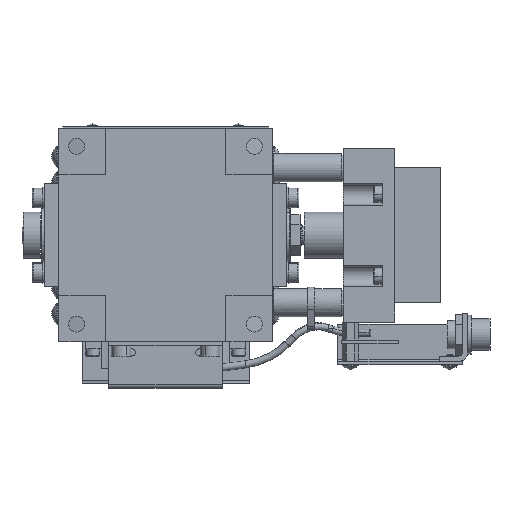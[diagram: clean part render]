
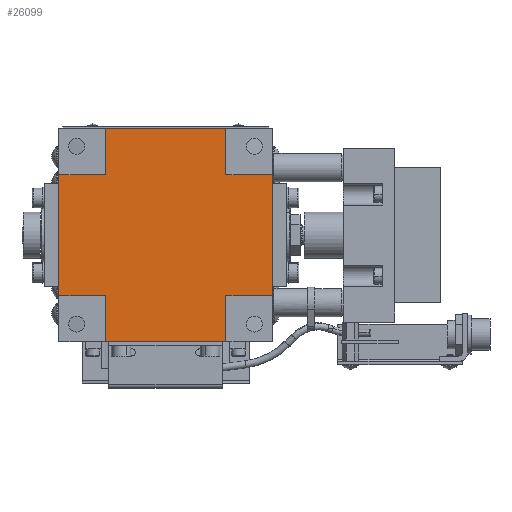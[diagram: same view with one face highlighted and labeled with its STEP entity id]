
A CAD part, front view. The second image highlights one B-rep face of the part: STEP entity #26099.
In plain terms, the highlighted planar face has unit normal (0, -1, 0).
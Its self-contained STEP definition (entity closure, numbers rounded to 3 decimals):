
#379 = CARTESIAN_POINT ( 'NONE',  ( -17., 0.3, -30. ) ) ;
#1119 = LINE ( 'NONE', #3872, #7106 ) ;
#1122 = VECTOR ( 'NONE', #15544, 1000. ) ;
#1165 = DIRECTION ( 'NONE',  ( -1., 0., 0. ) ) ;
#1286 = PLANE ( 'NONE',  #15846 ) ;
#1854 = VECTOR ( 'NONE', #28286, 1000. ) ;
#2549 = VERTEX_POINT ( 'NONE', #10016 ) ;
#3120 = EDGE_CURVE ( 'NONE', #18739, #12435, #4174, .T. ) ;
#3287 = EDGE_CURVE ( 'NONE', #12435, #21668, #12862, .T. ) ;
#3872 = CARTESIAN_POINT ( 'NONE',  ( -30., 0.3, 17. ) ) ;
#4174 = LINE ( 'NONE', #13944, #28178 ) ;
#4326 = VERTEX_POINT ( 'NONE', #22084 ) ;
#5207 = DIRECTION ( 'NONE',  ( 0., 0., 1. ) ) ;
#5702 = CARTESIAN_POINT ( 'NONE',  ( -17., 0.3, 30. ) ) ;
#6224 = ORIENTED_EDGE ( 'NONE', *, *, #12008, .T. ) ;
#6903 = CARTESIAN_POINT ( 'NONE',  ( -17., 0.3, -30. ) ) ;
#7106 = VECTOR ( 'NONE', #21677, 1000. ) ;
#7121 = VECTOR ( 'NONE', #10464, 1000. ) ;
#7135 = CARTESIAN_POINT ( 'NONE',  ( -30., 0.3, -17. ) ) ;
#7307 = EDGE_CURVE ( 'NONE', #21668, #4326, #8519, .T. ) ;
#7794 = CARTESIAN_POINT ( 'NONE',  ( 30., 0.3, 17. ) ) ;
#7825 = LINE ( 'NONE', #7899, #1854 ) ;
#7899 = CARTESIAN_POINT ( 'NONE',  ( -30., 0.3, -17. ) ) ;
#7927 = VECTOR ( 'NONE', #20211, 1000. ) ;
#7968 = ORIENTED_EDGE ( 'NONE', *, *, #8666, .T. ) ;
#8000 = VECTOR ( 'NONE', #14420, 1000. ) ;
#8519 = LINE ( 'NONE', #28573, #1122 ) ;
#8666 = EDGE_CURVE ( 'NONE', #10912, #2549, #25768, .T. ) ;
#8737 = VERTEX_POINT ( 'NONE', #9597 ) ;
#8740 = VERTEX_POINT ( 'NONE', #13946 ) ;
#9041 = CARTESIAN_POINT ( 'NONE',  ( 17., 0.3, -30. ) ) ;
#9116 = DIRECTION ( 'NONE',  ( 1., 0., 0. ) ) ;
#9476 = EDGE_CURVE ( 'NONE', #24300, #8737, #25319, .T. ) ;
#9560 = EDGE_CURVE ( 'NONE', #20456, #18739, #11095, .T. ) ;
#9597 = CARTESIAN_POINT ( 'NONE',  ( 17., 0.3, -30. ) ) ;
#10016 = CARTESIAN_POINT ( 'NONE',  ( 30., 0.3, -17. ) ) ;
#10464 = DIRECTION ( 'NONE',  ( 0., 0., 1. ) ) ;
#10912 = VERTEX_POINT ( 'NONE', #17285 ) ;
#11095 = LINE ( 'NONE', #21156, #25983 ) ;
#11154 = ORIENTED_EDGE ( 'NONE', *, *, #9476, .T. ) ;
#11931 = CARTESIAN_POINT ( 'NONE',  ( -30., 0.3, 17. ) ) ;
#12008 = EDGE_CURVE ( 'NONE', #8740, #22316, #1119, .T. ) ;
#12435 = VERTEX_POINT ( 'NONE', #12718 ) ;
#12674 = ORIENTED_EDGE ( 'NONE', *, *, #7307, .T. ) ;
#12718 = CARTESIAN_POINT ( 'NONE',  ( 17., 0.3, 30. ) ) ;
#12771 = LINE ( 'NONE', #9041, #7927 ) ;
#12862 = LINE ( 'NONE', #5702, #8000 ) ;
#13375 = CARTESIAN_POINT ( 'NONE',  ( 17., 0.3, -17. ) ) ;
#13944 = CARTESIAN_POINT ( 'NONE',  ( 17., 0.3, 17. ) ) ;
#13946 = CARTESIAN_POINT ( 'NONE',  ( -30., 0.3, 17. ) ) ;
#14420 = DIRECTION ( 'NONE',  ( -1., 0., 0. ) ) ;
#15544 = DIRECTION ( 'NONE',  ( 0., 0., -1. ) ) ;
#15846 = AXIS2_PLACEMENT_3D ( 'NONE', #25730, #27971, #25829 ) ;
#15957 = ORIENTED_EDGE ( 'NONE', *, *, #17187, .T. ) ;
#15999 = DIRECTION ( 'NONE',  ( 0., 0., -1. ) ) ;
#16049 = EDGE_LOOP ( 'NONE', ( #7968, #22090, #20410, #16556, #28203, #12674, #17425, #6224, #25638, #25308, #11154, #15957 ) ) ;
#16159 = CARTESIAN_POINT ( 'NONE',  ( 17., 0.3, 17. ) ) ;
#16556 = ORIENTED_EDGE ( 'NONE', *, *, #3120, .T. ) ;
#16651 = DIRECTION ( 'NONE',  ( -1., 0., 0. ) ) ;
#17187 = EDGE_CURVE ( 'NONE', #8737, #10912, #12771, .T. ) ;
#17285 = CARTESIAN_POINT ( 'NONE',  ( 17., 0.3, -17. ) ) ;
#17425 = ORIENTED_EDGE ( 'NONE', *, *, #26548, .T. ) ;
#18416 = CARTESIAN_POINT ( 'NONE',  ( -17., 0.3, 30. ) ) ;
#18434 = DIRECTION ( 'NONE',  ( 1., 0., 0. ) ) ;
#18739 = VERTEX_POINT ( 'NONE', #16159 ) ;
#18957 = EDGE_CURVE ( 'NONE', #2549, #20456, #24810, .T. ) ;
#19390 = VERTEX_POINT ( 'NONE', #23122 ) ;
#19561 = EDGE_CURVE ( 'NONE', #22316, #19390, #7825, .T. ) ;
#19703 = CARTESIAN_POINT ( 'NONE',  ( 30., 0.3, 17. ) ) ;
#19922 = VECTOR ( 'NONE', #15999, 1000. ) ;
#20211 = DIRECTION ( 'NONE',  ( 0., 0., 1. ) ) ;
#20410 = ORIENTED_EDGE ( 'NONE', *, *, #9560, .T. ) ;
#20456 = VERTEX_POINT ( 'NONE', #7794 ) ;
#20609 = FACE_OUTER_BOUND ( 'NONE', #16049, .T. ) ;
#21156 = CARTESIAN_POINT ( 'NONE',  ( 17., 0.3, 17. ) ) ;
#21200 = EDGE_CURVE ( 'NONE', #19390, #24300, #25785, .T. ) ;
#21668 = VERTEX_POINT ( 'NONE', #18416 ) ;
#21677 = DIRECTION ( 'NONE',  ( 0., 0., -1. ) ) ;
#22084 = CARTESIAN_POINT ( 'NONE',  ( -17., 0.3, 17. ) ) ;
#22090 = ORIENTED_EDGE ( 'NONE', *, *, #18957, .T. ) ;
#22316 = VERTEX_POINT ( 'NONE', #7135 ) ;
#22534 = VECTOR ( 'NONE', #18434, 1000. ) ;
#23122 = CARTESIAN_POINT ( 'NONE',  ( -17., 0.3, -17. ) ) ;
#23318 = CARTESIAN_POINT ( 'NONE',  ( -17., 0.3, -30. ) ) ;
#24052 = VECTOR ( 'NONE', #9116, 1000. ) ;
#24300 = VERTEX_POINT ( 'NONE', #23318 ) ;
#24810 = LINE ( 'NONE', #19703, #7121 ) ;
#25308 = ORIENTED_EDGE ( 'NONE', *, *, #21200, .T. ) ;
#25319 = LINE ( 'NONE', #379, #22534 ) ;
#25638 = ORIENTED_EDGE ( 'NONE', *, *, #19561, .T. ) ;
#25730 = CARTESIAN_POINT ( 'NONE',  ( 0., 0.3, 0. ) ) ;
#25768 = LINE ( 'NONE', #13375, #24052 ) ;
#25785 = LINE ( 'NONE', #6903, #19922 ) ;
#25829 = DIRECTION ( 'NONE',  ( -1., 0., 0. ) ) ;
#25983 = VECTOR ( 'NONE', #1165, 1000. ) ;
#26099 = ADVANCED_FACE ( 'NONE', ( #20609 ), #1286, .F. ) ;
#26489 = LINE ( 'NONE', #11931, #27177 ) ;
#26548 = EDGE_CURVE ( 'NONE', #4326, #8740, #26489, .T. ) ;
#27177 = VECTOR ( 'NONE', #16651, 1000. ) ;
#27971 = DIRECTION ( 'NONE',  ( 0., 1., 0. ) ) ;
#28178 = VECTOR ( 'NONE', #5207, 1000. ) ;
#28203 = ORIENTED_EDGE ( 'NONE', *, *, #3287, .T. ) ;
#28286 = DIRECTION ( 'NONE',  ( 1., 0., 0. ) ) ;
#28573 = CARTESIAN_POINT ( 'NONE',  ( -17., 0.3, 17. ) ) ;
